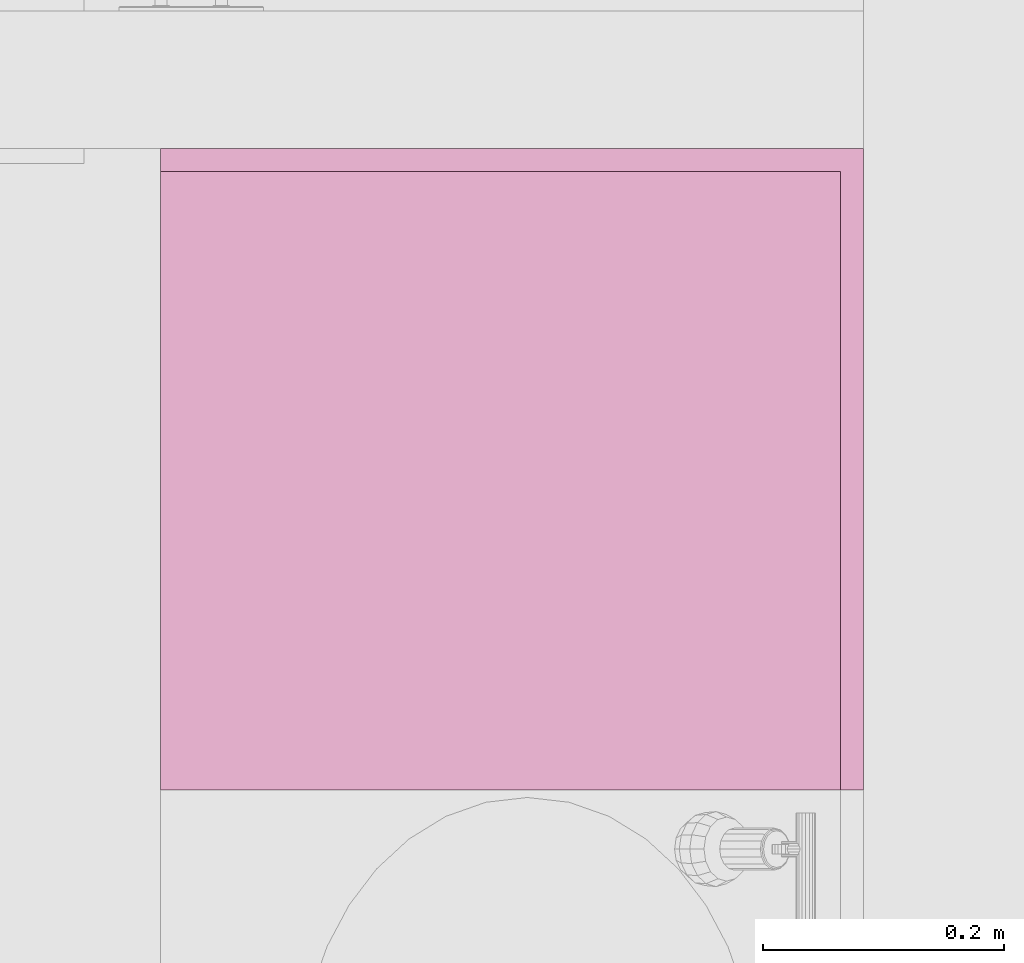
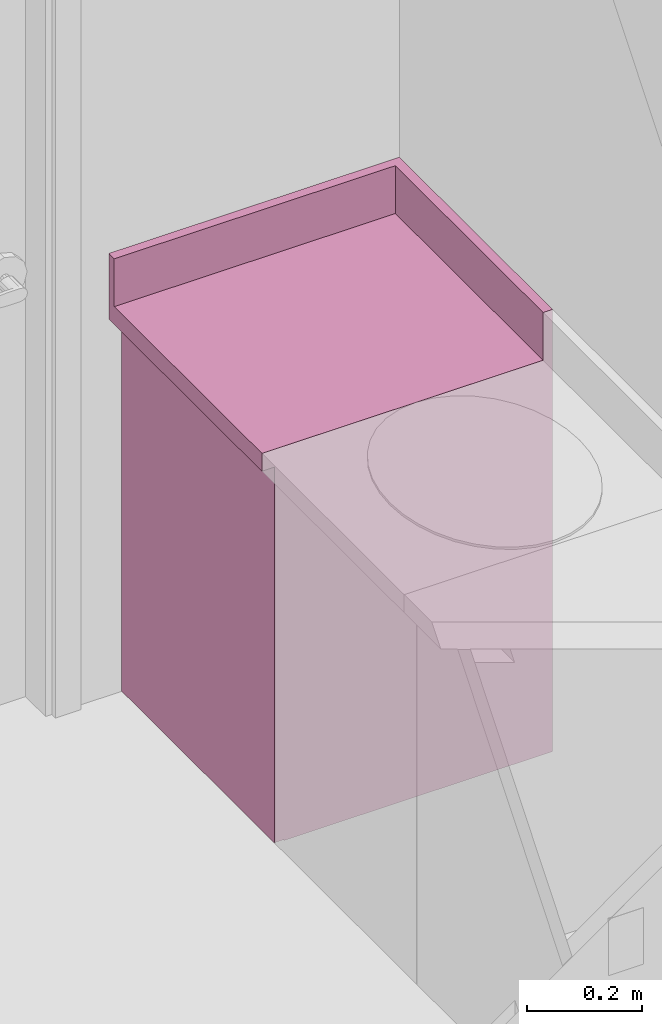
# One storey, part 19 of 48: 1 furnishing.
"""IFC2X3 building model written with IfcOpenShell, lengths in inches."""

from ifc_helpers import new_model, entity, si_unit, converted_unit, derived_unit, money_unit, direction, frame, origin_with_axes, place, context, subcontext, project, spatial, faceted_brep, type_object, element, save


model = new_model("IFC2X3")

# Units and contexts
model_context = context("Model", 3, precision=0.00039370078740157, world=origin_with_axes(), true_north=direction((0.0, 1.0)))
plan_context = context("Plan", 3, precision=0.00039370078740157, world=origin_with_axes(), true_north=direction((0.0, 1.0)))
body_context = subcontext(model_context, "Body", "Model", "MODEL_VIEW")
ifc_project = project(units=[converted_unit("LENGTHUNIT", "INCH", entity("IfcPositiveLengthMeasure", 0.0254), si_unit("LENGTHUNIT", "METRE"), dimensions=[1, 0, 0, 0, 0, 0, 0]), converted_unit("AREAUNIT", "SQUARE_FOOT", entity("IfcPositiveLengthMeasure", 0.09290304), si_unit("AREAUNIT", "SQUARE_METRE"), dimensions=[2, 0, 0, 0, 0, 0, 0]), si_unit("PLANEANGLEUNIT", "RADIAN"), si_unit("SOLIDANGLEUNIT", "STERADIAN"), money_unit("USD"), converted_unit("TIMEUNIT", "Year", entity("IfcTimeMeasure", 31557600.0), si_unit("TIMEUNIT", "SECOND"), dimensions=[0, 0, 1, 0, 0, 0, 0]), si_unit("MASSUNIT", "GRAM", prefix="KILO"), si_unit("THERMODYNAMICTEMPERATUREUNIT", "DEGREE_CELSIUS"), si_unit("LUMINOUSINTENSITYUNIT", "LUMEN"), si_unit("ENERGYUNIT", "JOULE", prefix="MEGA"), derived_unit("SPECIFICHEATCAPACITYUNIT", [(si_unit("ENERGYUNIT", "JOULE"), 1), (si_unit("MASSUNIT", "GRAM", prefix="KILO"), -1), (si_unit("THERMODYNAMICTEMPERATUREUNIT", "KELVIN"), -1)])], contexts=[model_context, plan_context])

# Site, building, storey
site_placement = place(None, origin_with_axes())
site = spatial("IfcSite", under=ifc_project, at=site_placement, Name="Site", CompositionType="ELEMENT")
building_placement = place(site_placement, origin_with_axes())
building = spatial("IfcBuilding", under=site, at=building_placement, Name="Building", CompositionType="ELEMENT")
storey_placement = place(building_placement, origin_with_axes())
storey = spatial("IfcBuildingStorey", under=building, at=storey_placement, Name="First Floor", CompositionType="ELEMENT", Elevation=0.0)

# Furnishing
furniture_type = type_object("IfcFurnitureType", Name="Base Cabinet Block", AssemblyPlace="NOTDEFINED")
furnishing_placement = place(storey_placement, frame((-57.49952807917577, 486.9999999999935, 0.0), z_axis=(0.0, 0.0, 1.0), x_axis=(0.0, -1.0, 0.0)))
element("IfcFurnishingElement", 1, at=furnishing_placement, inside=storey, type_object=furniture_type, Name="FU - 030", context=body_context, shape_type="Brep", body=[
    faceted_brep([(0.0, -22.99999999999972, 31.49999999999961), (20.99999999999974, -22.99999999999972, 31.49999999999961), (20.99999999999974, -22.99999999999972, 32.99999999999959), (0.0, -22.99999999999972, 32.99999999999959), (0.0, 0.0, 31.49999999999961), (20.99999999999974, 0.0, 31.49999999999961), (20.99999999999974, 0.0, 32.99999999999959), (0.0, 0.0, 32.99999999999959)], [[[0, 1, 2, 3]], [[0, 4, 5, 1]], [[1, 5, 6, 2]], [[3, 2, 6, 7]], [[4, 0, 3, 7]], [[5, 4, 7, 6]]]),
    faceted_brep([(20.99999999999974, 0.0, 32.99999999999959), (20.99999999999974, -0.7499999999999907, 32.99999999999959), (0.7499999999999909, -0.7499999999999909, 32.99999999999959), (0.0, 0.0, 32.99999999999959), (20.99999999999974, 0.0, 36.99999999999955), (20.99999999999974, -0.7499999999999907, 36.99999999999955), (0.7499999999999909, -0.7499999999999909, 36.99999999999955), (0.0, 0.0, 36.99999999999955)], [[[0, 1, 2, 3]], [[0, 4, 5, 1]], [[1, 5, 6, 2]], [[3, 2, 6, 7]], [[4, 0, 3, 7]], [[5, 4, 7, 6]]]),
    faceted_brep([(0.0, 0.0, 32.99999999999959), (0.7499999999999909, -0.7499999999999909, 32.99999999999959), (0.7499999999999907, -22.99999999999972, 32.99999999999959), (0.0, -22.99999999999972, 32.99999999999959), (0.0, 0.0, 36.99999999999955), (0.7499999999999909, -0.7499999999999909, 36.99999999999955), (0.7499999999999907, -22.99999999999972, 36.99999999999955), (0.0, -22.99999999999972, 36.99999999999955)], [[[0, 1, 2, 3]], [[0, 4, 5, 1]], [[1, 5, 6, 2]], [[3, 2, 6, 7]], [[4, 0, 3, 7]], [[5, 4, 7, 6]]]),
    faceted_brep([(0.039370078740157, -21.24999999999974, 0.039370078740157), (20.96062992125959, -21.24999999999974, 0.039370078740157), (20.96062992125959, -21.99999999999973, 0.03937007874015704), (0.039370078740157, -21.99999999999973, 0.03937007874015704), (0.039370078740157, -21.24999999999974, 31.46062992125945), (20.96062992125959, -21.24999999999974, 31.46062992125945), (20.96062992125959, -21.99999999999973, 31.46062992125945), (0.039370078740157, -21.99999999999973, 31.46062992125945)], [[[0, 1, 2, 3]], [[0, 4, 5, 1]], [[1, 5, 6, 2]], [[3, 2, 6, 7]], [[4, 0, 3, 7]], [[5, 4, 7, 6]]]),
    faceted_brep([(0.7499999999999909, -21.24999999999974, 0.0), (20.24999999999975, -21.24999999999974, 0.0), (20.24999999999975, -21.24999999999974, 0.7499999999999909), (0.7499999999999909, -21.24999999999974, 0.7499999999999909), (0.7499999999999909, 0.0, 0.0), (20.24999999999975, 0.0, 0.0), (20.24999999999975, 0.0, 0.7499999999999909), (0.7499999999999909, 0.0, 0.7499999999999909)], [[[0, 1, 2, 3]], [[0, 4, 5, 1]], [[1, 5, 6, 2]], [[3, 2, 6, 7]], [[4, 0, 3, 7]], [[5, 4, 7, 6]]]),
    faceted_brep([(0.7499999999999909, -21.24999999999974, 30.74999999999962), (0.7499999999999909, -18.88779527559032, 30.74999999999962), (20.24999999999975, -18.88779527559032, 30.74999999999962), (20.24999999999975, -21.24999999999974, 30.74999999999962), (0.7499999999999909, -21.24999999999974, 31.49999999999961), (0.7499999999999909, -18.88779527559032, 31.49999999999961), (20.24999999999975, -18.88779527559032, 31.49999999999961), (20.24999999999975, -21.24999999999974, 31.49999999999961)], [[[0, 1, 2, 3]], [[0, 4, 5, 1]], [[1, 5, 6, 2]], [[3, 2, 6, 7]], [[4, 0, 3, 7]], [[5, 4, 7, 6]]]),
    faceted_brep([(20.24999999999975, 0.0, 30.74999999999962), (20.24999999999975, -2.36220472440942, 30.74999999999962), (0.7499999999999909, -2.36220472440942, 30.74999999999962), (0.7499999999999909, 0.0, 30.74999999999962), (20.24999999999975, 0.0, 31.49999999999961), (20.24999999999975, -2.36220472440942, 31.49999999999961), (0.7499999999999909, -2.36220472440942, 31.49999999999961), (0.7499999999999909, 0.0, 31.49999999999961)], [[[0, 1, 2, 3]], [[0, 4, 5, 1]], [[1, 5, 6, 2]], [[3, 2, 6, 7]], [[4, 0, 3, 7]], [[5, 4, 7, 6]]]),
    faceted_brep([(0.0, 0.0, 0.0), (0.0, -21.24999999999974, 0.0), (0.0, -21.24999999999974, 31.49999999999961), (0.0, 0.0, 31.49999999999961), (0.7499999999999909, 0.0, 0.0), (0.7499999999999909, -21.24999999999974, 0.0), (0.7499999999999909, -21.24999999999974, 31.49999999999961), (0.7499999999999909, 0.0, 31.49999999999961)], [[[0, 1, 2, 3]], [[0, 4, 5, 1]], [[1, 5, 6, 2]], [[3, 2, 6, 7]], [[4, 0, 3, 7]], [[5, 4, 7, 6]]]),
    faceted_brep([(20.99999999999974, -21.24999999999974, 0.0), (20.99999999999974, 0.0, 0.0), (20.99999999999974, 0.0, 31.49999999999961), (20.99999999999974, -21.24999999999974, 31.49999999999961), (20.24999999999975, -21.24999999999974, 0.0), (20.24999999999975, 0.0, 0.0), (20.24999999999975, 0.0, 31.49999999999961), (20.24999999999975, -21.24999999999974, 31.49999999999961)], [[[0, 1, 2, 3]], [[0, 4, 5, 1]], [[1, 5, 6, 2]], [[3, 2, 6, 7]], [[4, 0, 3, 7]], [[5, 4, 7, 6]]]),
    faceted_brep([(20.24999999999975, -0.3749999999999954, 0.7499999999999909), (0.7499999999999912, -0.3749999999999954, 0.7499999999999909), (0.7499999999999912, -0.3749999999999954, 30.74999999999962), (20.24999999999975, -0.3749999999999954, 30.74999999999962), (20.24999999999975, -0.7499999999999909, 0.7499999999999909), (0.7499999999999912, -0.7499999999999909, 0.7499999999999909), (0.7499999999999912, -0.7499999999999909, 30.74999999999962), (20.24999999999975, -0.7499999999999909, 30.74999999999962)], [[[0, 1, 2, 3]], [[0, 4, 5, 1]], [[1, 5, 6, 2]], [[3, 2, 6, 7]], [[4, 0, 3, 7]], [[5, 4, 7, 6]]]),
])

save(model, "model.ifc")
